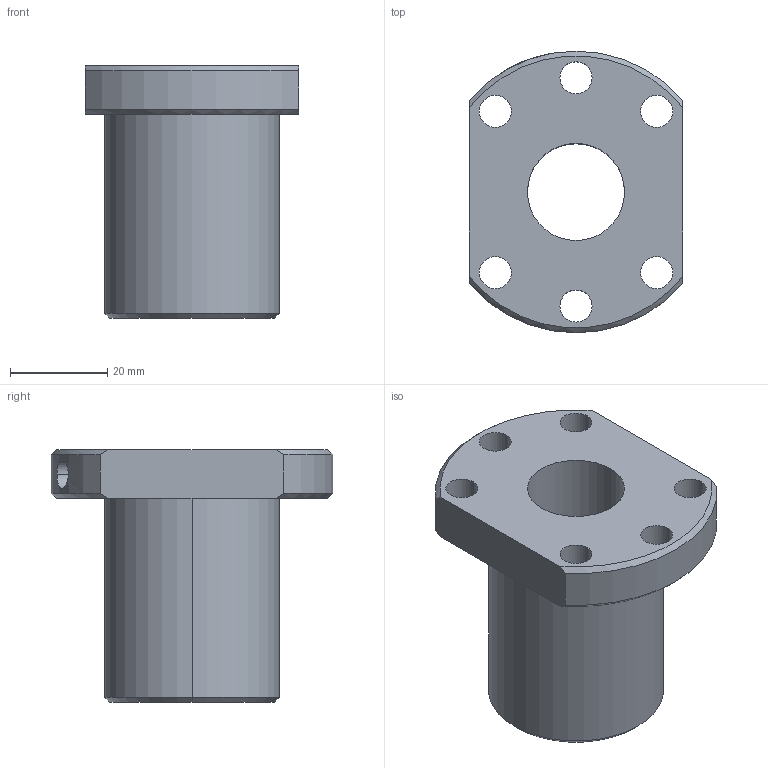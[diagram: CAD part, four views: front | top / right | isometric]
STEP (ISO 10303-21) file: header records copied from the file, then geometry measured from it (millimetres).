
FILE_DESCRIPTION((''),'2;1');
FILE_NAME('A10A0KA1','2018-09-05T11:45:05',('bryant.lin'),(''),'CREO PARAMETRIC BY PTC INC, 2018050','CREO PARAMETRIC BY PTC INC, 2018050','');
FILE_SCHEMA(('CONFIG_CONTROL_DESIGN'));
Length unit declared in the file: millimetre
Products named in the file (1): A10A0KA1
Bounding box: 44 x 58 x 52 mm (x, y, z)
Volume: 46779.7 mm3; surface area: 14496.1 mm2
Topology: 1 solids, 1 shells, 32 faces, 82 edges, 54 vertices
Faces by surface type: cylinder 20, plane 6, cone 6
Entity records: 1150 total; most frequent: CARTESIAN_POINT 278, DIRECTION 180, ORIENTED_EDGE 164, EDGE_CURVE 82, AXIS2_PLACEMENT_3D 76, VERTEX_POINT 54, EDGE_LOOP 48, CIRCLE 44
